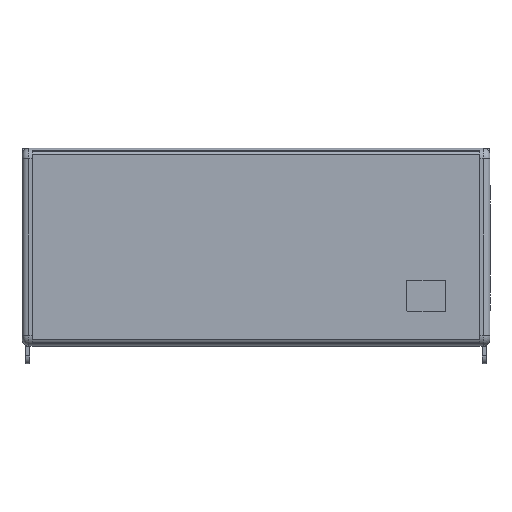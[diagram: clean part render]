
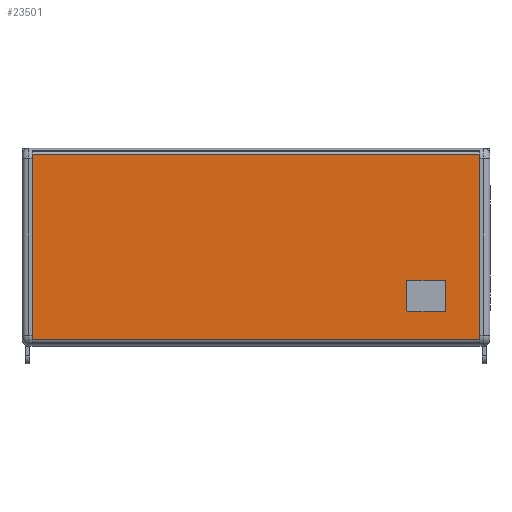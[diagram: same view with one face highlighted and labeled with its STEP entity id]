
A CAD part, top view. The second image highlights one B-rep face of the part: STEP entity #23501.
In plain terms, the highlighted planar face has unit normal (0, 0, 1).
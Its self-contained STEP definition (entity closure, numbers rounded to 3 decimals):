
#2054 = FACE_BOUND ( 'NONE', #27812, .T. ) ;
#2055 = FACE_OUTER_BOUND ( 'NONE', #27813, .T. ) ;
#4051 = AXIS2_PLACEMENT_3D ( 'NONE', #5233, #5234, #5235 ) ;
#5232 = PLANE ( 'NONE',  #4051 ) ;
#5233 = CARTESIAN_POINT ( 'NONE',  ( -250.897, -93.235, 215.398 ) ) ;
#5234 = DIRECTION ( 'NONE',  ( 0., 0., 1. ) ) ;
#5235 = DIRECTION ( 'NONE',  ( 1., 0., 0. ) ) ;
#14807 = AXIS2_PLACEMENT_3D ( 'NONE', #19461, #19462, #19463 ) ;
#14808 = AXIS2_PLACEMENT_3D ( 'NONE', #19466, #19467, #19468 ) ;
#14809 = AXIS2_PLACEMENT_3D ( 'NONE', #19471, #19472, #19473 ) ;
#14810 = AXIS2_PLACEMENT_3D ( 'NONE', #19476, #19477, #19478 ) ;
#16743 = LINE ( 'NONE', #17979, #16744 ) ;
#16744 = VECTOR ( 'NONE', #17980, 1000. ) ;
#16915 = LINE ( 'NONE', #18258, #16917 ) ;
#16917 = VECTOR ( 'NONE', #18259, 1000. ) ;
#16922 = LINE ( 'NONE', #18271, #16924 ) ;
#16924 = VECTOR ( 'NONE', #18272, 1000. ) ;
#16994 = LINE ( 'NONE', #19464, #16996 ) ;
#16995 = CIRCLE ( 'NONE', #14807, 1. ) ;
#16996 = VECTOR ( 'NONE', #19465, 1000. ) ;
#16997 = LINE ( 'NONE', #19469, #16999 ) ;
#16998 = CIRCLE ( 'NONE', #14808, 1. ) ;
#16999 = VECTOR ( 'NONE', #19470, 1000. ) ;
#17000 = LINE ( 'NONE', #19474, #17002 ) ;
#17001 = CIRCLE ( 'NONE', #14809, 1. ) ;
#17002 = VECTOR ( 'NONE', #19475, 1000. ) ;
#17003 = LINE ( 'NONE', #19479, #17005 ) ;
#17004 = CIRCLE ( 'NONE', #14810, 1. ) ;
#17005 = VECTOR ( 'NONE', #19480, 1000. ) ;
#17006 = LINE ( 'NONE', #19481, #17007 ) ;
#17007 = VECTOR ( 'NONE', #19482, 1000. ) ;
#17979 = CARTESIAN_POINT ( 'NONE',  ( -250.897, 96.765, 215.398 ) ) ;
#17980 = DIRECTION ( 'NONE',  ( 0., -1., 0. ) ) ;
#18258 = CARTESIAN_POINT ( 'NONE',  ( 189.103, -87.593, 215.398 ) ) ;
#18259 = DIRECTION ( 'NONE',  ( -1., 0., 0. ) ) ;
#18271 = CARTESIAN_POINT ( 'NONE',  ( 189.103, 91.124, 215.398 ) ) ;
#18272 = DIRECTION ( 'NONE',  ( 1., 0., 0. ) ) ;
#19461 = CARTESIAN_POINT ( 'NONE',  ( 145.103, -31.235, 215.398 ) ) ;
#19462 = DIRECTION ( 'NONE',  ( 0., 0., 1. ) ) ;
#19463 = DIRECTION ( 'NONE',  ( -1., 0., 0. ) ) ;
#19464 = CARTESIAN_POINT ( 'NONE',  ( 146.103, -31.235, 215.398 ) ) ;
#19465 = DIRECTION ( 'NONE',  ( 0., 1., 0. ) ) ;
#19466 = CARTESIAN_POINT ( 'NONE',  ( 145.103, -59.235, 215.398 ) ) ;
#19467 = DIRECTION ( 'NONE',  ( 0., 0., 1. ) ) ;
#19468 = DIRECTION ( 'NONE',  ( 1., 0., 0. ) ) ;
#19469 = CARTESIAN_POINT ( 'NONE',  ( 110.103, -60.235, 215.398 ) ) ;
#19470 = DIRECTION ( 'NONE',  ( 1., 0., 0. ) ) ;
#19471 = CARTESIAN_POINT ( 'NONE',  ( 110.103, -59.235, 215.398 ) ) ;
#19472 = DIRECTION ( 'NONE',  ( 0., 0., 1. ) ) ;
#19473 = DIRECTION ( 'NONE',  ( 1., 0., 0. ) ) ;
#19474 = CARTESIAN_POINT ( 'NONE',  ( 109.103, -31.235, 215.398 ) ) ;
#19475 = DIRECTION ( 'NONE',  ( 0., -1., 0. ) ) ;
#19476 = CARTESIAN_POINT ( 'NONE',  ( 110.103, -31.235, 215.398 ) ) ;
#19477 = DIRECTION ( 'NONE',  ( 0., 0., 1. ) ) ;
#19478 = DIRECTION ( 'NONE',  ( 1., 0., 0. ) ) ;
#19479 = CARTESIAN_POINT ( 'NONE',  ( 110.103, -30.235, 215.398 ) ) ;
#19480 = DIRECTION ( 'NONE',  ( -1., 0., 0. ) ) ;
#19481 = CARTESIAN_POINT ( 'NONE',  ( 179.103, 96.765, 215.398 ) ) ;
#19482 = DIRECTION ( 'NONE',  ( 0., 1., 0. ) ) ;
#21606 = CARTESIAN_POINT ( 'NONE',  ( -250.897, 91.124, 215.398 ) ) ;
#21608 = CARTESIAN_POINT ( 'NONE',  ( -250.897, -87.593, 215.398 ) ) ;
#21710 = CARTESIAN_POINT ( 'NONE',  ( 179.103, -87.593, 215.398 ) ) ;
#21714 = CARTESIAN_POINT ( 'NONE',  ( 179.103, 91.124, 215.398 ) ) ;
#21750 = CARTESIAN_POINT ( 'NONE',  ( 146.103, -31.235, 215.398 ) ) ;
#21752 = CARTESIAN_POINT ( 'NONE',  ( 145.103, -30.235, 215.398 ) ) ;
#21754 = CARTESIAN_POINT ( 'NONE',  ( 146.103, -59.235, 215.398 ) ) ;
#21756 = CARTESIAN_POINT ( 'NONE',  ( 145.103, -60.235, 215.398 ) ) ;
#21758 = CARTESIAN_POINT ( 'NONE',  ( 110.103, -60.235, 215.398 ) ) ;
#21760 = CARTESIAN_POINT ( 'NONE',  ( 109.103, -59.235, 215.398 ) ) ;
#21762 = CARTESIAN_POINT ( 'NONE',  ( 109.103, -31.235, 215.398 ) ) ;
#21764 = CARTESIAN_POINT ( 'NONE',  ( 110.103, -30.235, 215.398 ) ) ;
#23501 = ADVANCED_FACE ( 'NONE', ( #2054, #2055 ), #5232, .T. ) ;
#27812 = EDGE_LOOP ( 'NONE', ( #30780, #30781, #30782, #30783, #30784, #30785, #30786, #30787 ) ) ;
#27813 = EDGE_LOOP ( 'NONE', ( #30788, #30789, #30790, #30791 ) ) ;
#28991 = EDGE_CURVE ( 'NONE', #31718, #31719, #16743, .T. ) ;
#29104 = EDGE_CURVE ( 'NONE', #31770, #31719, #16915, .T. ) ;
#29109 = EDGE_CURVE ( 'NONE', #31718, #31772, #16922, .T. ) ;
#29161 = EDGE_CURVE ( 'NONE', #31790, #31791, #16995, .T. ) ;
#29162 = EDGE_CURVE ( 'NONE', #31792, #31790, #16994, .T. ) ;
#29163 = EDGE_CURVE ( 'NONE', #31793, #31792, #16998, .T. ) ;
#29164 = EDGE_CURVE ( 'NONE', #31794, #31793, #16997, .T. ) ;
#29165 = EDGE_CURVE ( 'NONE', #31795, #31794, #17001, .T. ) ;
#29166 = EDGE_CURVE ( 'NONE', #31796, #31795, #17000, .T. ) ;
#29167 = EDGE_CURVE ( 'NONE', #31797, #31796, #17004, .T. ) ;
#29168 = EDGE_CURVE ( 'NONE', #31791, #31797, #17003, .T. ) ;
#29169 = EDGE_CURVE ( 'NONE', #31770, #31772, #17006, .T. ) ;
#30780 = ORIENTED_EDGE ( 'NONE', *, *, #29161, .F. ) ;
#30781 = ORIENTED_EDGE ( 'NONE', *, *, #29162, .F. ) ;
#30782 = ORIENTED_EDGE ( 'NONE', *, *, #29163, .F. ) ;
#30783 = ORIENTED_EDGE ( 'NONE', *, *, #29164, .F. ) ;
#30784 = ORIENTED_EDGE ( 'NONE', *, *, #29165, .F. ) ;
#30785 = ORIENTED_EDGE ( 'NONE', *, *, #29166, .F. ) ;
#30786 = ORIENTED_EDGE ( 'NONE', *, *, #29167, .F. ) ;
#30787 = ORIENTED_EDGE ( 'NONE', *, *, #29168, .F. ) ;
#30788 = ORIENTED_EDGE ( 'NONE', *, *, #29109, .F. ) ;
#30789 = ORIENTED_EDGE ( 'NONE', *, *, #28991, .T. ) ;
#30790 = ORIENTED_EDGE ( 'NONE', *, *, #29104, .F. ) ;
#30791 = ORIENTED_EDGE ( 'NONE', *, *, #29169, .T. ) ;
#31718 = VERTEX_POINT ( 'NONE', #21606 ) ;
#31719 = VERTEX_POINT ( 'NONE', #21608 ) ;
#31770 = VERTEX_POINT ( 'NONE', #21710 ) ;
#31772 = VERTEX_POINT ( 'NONE', #21714 ) ;
#31790 = VERTEX_POINT ( 'NONE', #21750 ) ;
#31791 = VERTEX_POINT ( 'NONE', #21752 ) ;
#31792 = VERTEX_POINT ( 'NONE', #21754 ) ;
#31793 = VERTEX_POINT ( 'NONE', #21756 ) ;
#31794 = VERTEX_POINT ( 'NONE', #21758 ) ;
#31795 = VERTEX_POINT ( 'NONE', #21760 ) ;
#31796 = VERTEX_POINT ( 'NONE', #21762 ) ;
#31797 = VERTEX_POINT ( 'NONE', #21764 ) ;
